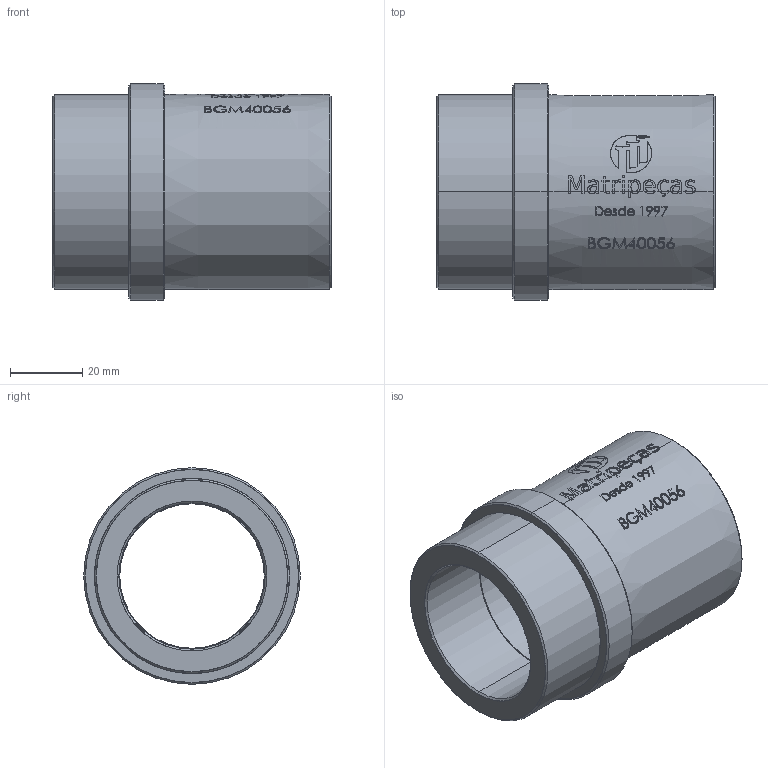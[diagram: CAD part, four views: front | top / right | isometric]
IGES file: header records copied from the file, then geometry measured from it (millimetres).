
Start section: SolidWorks IGES file using analytic representation for surfaces
Global section: file name: E:\1.TRIVECTOR\Clientes\MATRIPEÇAS\PEÇAS_CATALOGO_SITE\2.BGM - BUCHA GUIA E31 (CATÁLOGO)\BGM40056.IGS; native system: SolidWorks 2024; preprocessor: SolidWorks 2024; author: Gabriel Techio; date: 260828.090706; units: millimetre
Bounding box: 77 x 60 x 60 mm (x, y, z)
Surface area: 25871.1 mm2 (no closed solid volume)
Topology: 0 solids, 0 shells, 457 faces, 5724 edges, 5724 vertices
Faces by surface type: bspline 371, revolution 86
